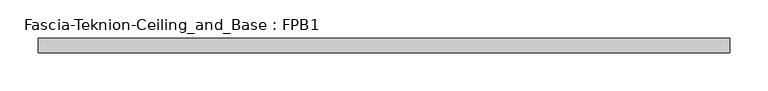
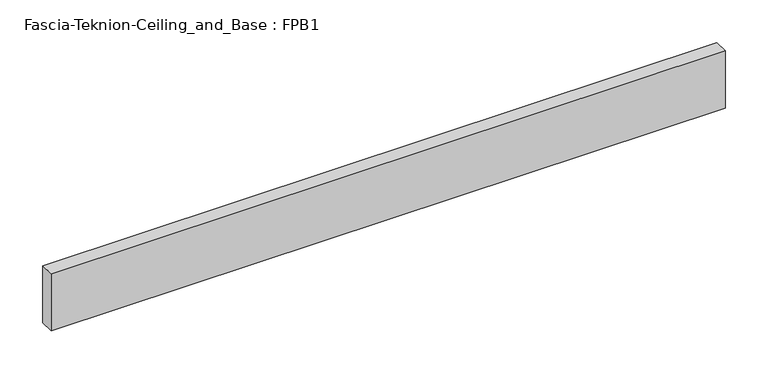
"""IFC4 building model written with IfcOpenShell, lengths in millimetres: proxy geometry, Fascia-Teknion-Ceiling_and_Base : FPB1."""

from ifc_helpers import new_model, si_unit, origin, origin_with_axes, place, context, project, spatial, polyline, outline, extrude, source, transform, mapped, element, save


def fascia_teknion_ceiling_and_base_fpb1_fca0640a(model_context):
    return source(origin(), model_context, "Body", "SweptSolid", [
        extrude(outline(polyline([(454.025, 0.0), (-454.025, 0.0), (-454.025, 19.05), (454.025, 19.05), (454.025, 0.0)])), origin_with_axes(), (0.0, 0.0, 1.0), 81.28),
    ])


if __name__ == "__main__":
    model = new_model("IFC4")
    model_context = context("Model", 3, world=origin())
    ifc_project = project(units=[si_unit("LENGTHUNIT", "METRE", prefix="MILLI")], contexts=[model_context])
    site = spatial("IfcSite", under=ifc_project)
    building = spatial("IfcBuilding", under=site)
    placement = place(None, origin())
    fascia_teknion_ceiling_and_base_fpb1_shape = fascia_teknion_ceiling_and_base_fpb1_fca0640a(model_context)
    element("IfcBuildingElementProxy", 1, Name="Fascia-Teknion-Ceiling_and_Base : FPB1", ObjectType="Fascia-Teknion-Ceiling_and_Base : FPB1", at=placement, inside=building, context=model_context, shape_type="MappedRepresentation", body=[
        mapped(fascia_teknion_ceiling_and_base_fpb1_shape, transform((0.0, 0.0, 0.0), x_axis=(1.0, 0.0, 0.0), y_axis=(0.0, 1.0, 0.0), z_axis=(0.0, 0.0, 1.0))),
    ])
    save(model, "model.ifc")
